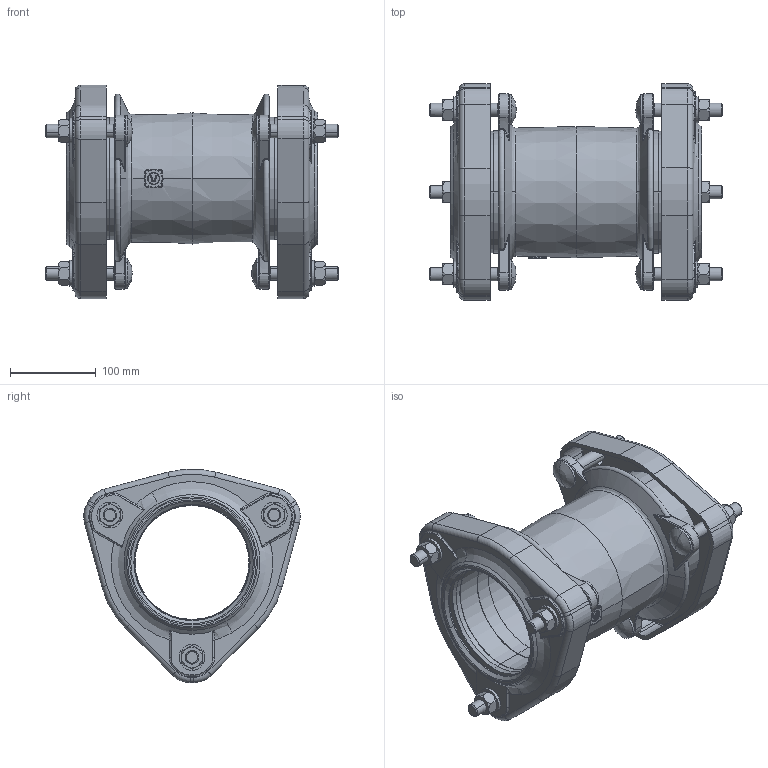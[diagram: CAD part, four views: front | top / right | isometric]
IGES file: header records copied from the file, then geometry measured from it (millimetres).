
Global section: file name: No Iges File Name specified; native system: AutoDesk Inventor R12.0; preprocessor: AutoDesk Inventor Iges Exporter R12.0; date: 20120627.104402; units: millimetre
Bounding box: 342 x 252.18 x 248.26 mm (x, y, z)
Volume: 1797196.9 mm3; surface area: 601799.4 mm2
Topology: 1 solids, 1 shells, 1044 faces, 2689 edges, 1672 vertices
Faces by surface type: plane 295, revolution 219, cylinder 187, bspline 168, cone 99, torus 76
